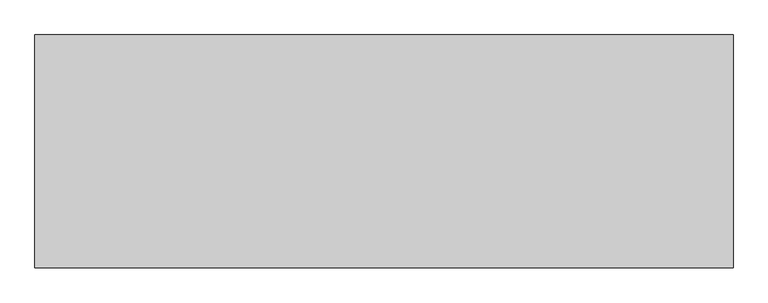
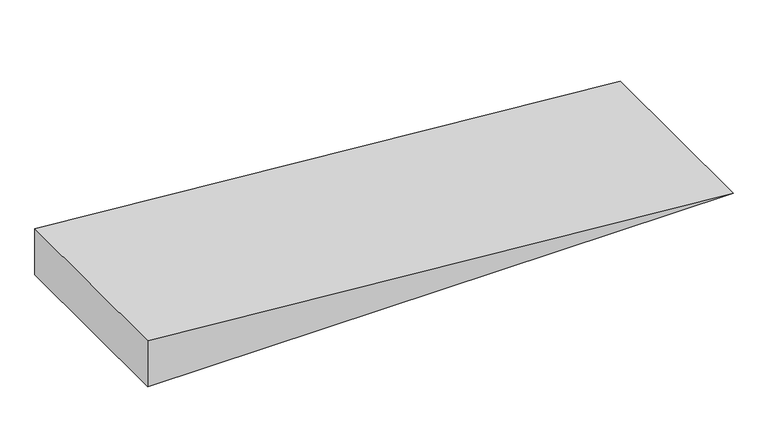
"""IFC4 building model written with IfcOpenShell, lengths in millimetres: ramp geometry, 坡道 1."""

import ifcopenshell
import ifcopenshell.guid

model = None  # the IFC model being written
_history = None  # IfcOwnerHistory: only IFC2X3 demands one
_inside = {}  # id of a spatial element -> (the spatial element, [elements in it])
_under = {}  # id of a project, library or spatial element -> (it, [spatial elements below it])
_declared = {}  # id of a project -> (the project, [libraries it declares])
_typed = {}  # id of a type object -> (the type object, [elements of that type])
_made_of = {}  # id of a material, layer set ... -> (it, [elements and type objects made of it])


def new_model(schema):
    """Start an empty IFC model of exactly this schema.

    Asked for "IFC4X3", IfcOpenShell would pick the latest addendum, in which some entities
    have other attributes; the version numbers below select the first issue.
    IFC2X3 requires an IfcOwnerHistory on every rooted entity: one is made here for all.
    """
    global model, _history
    if schema == "IFC4X3":
        model = ifcopenshell.file(schema_version=(4, 3, 0, 0))
    else:
        model = ifcopenshell.file(schema=schema)
    _inside.clear()
    _under.clear()
    _declared.clear()
    _typed.clear()
    _made_of.clear()
    _history = None
    if model.schema == "IFC2X3":
        org = make("IfcOrganization", Name="unknown")
        user = make(
            "IfcPersonAndOrganization",
            ThePerson=make("IfcPerson", FamilyName="unknown"),
            TheOrganization=org,
        )
        app = make(
            "IfcApplication",
            ApplicationDeveloper=org,
            Version="unknown",
            ApplicationFullName="unknown",
            ApplicationIdentifier="unknown",
        )
        _history = make(
            "IfcOwnerHistory",
            OwningUser=user,
            OwningApplication=app,
            ChangeAction="ADDED",
            CreationDate=0,
        )
    return model


def make(cls, **values):
    """One entity of the class cls with the attributes given. An attribute that is None is left unset."""
    return model.create_entity(
        cls, **{name: value for name, value in values.items() if value is not None}
    )


def rooted(cls, **values):
    """An entity with a GlobalId (a new one), such as an element, a storey or a relation."""
    return make(cls, GlobalId=ifcopenshell.guid.new(), OwnerHistory=_history, **values)


def si_unit(unit_type, name, prefix=None):
    """IfcSIUnit, for example si_unit("LENGTHUNIT", "METRE", prefix="MILLI")."""
    return make("IfcSIUnit", UnitType=unit_type, Prefix=prefix, Name=name)


def assignment(units):
    """IfcUnitAssignment: the units of a project."""
    return None if units is None else make("IfcUnitAssignment", Units=units)


def point(xyz):
    """IfcCartesianPoint."""
    return None if xyz is None else make("IfcCartesianPoint", Coordinates=xyz)


def direction(xyz):
    """IfcDirection."""
    return None if xyz is None else make("IfcDirection", DirectionRatios=xyz)


def frame(location, z_axis=None, x_axis=None):
    """IfcAxis2Placement3D, a coordinate frame: its origin and axes. An axis left out is left unset."""
    return make(
        "IfcAxis2Placement3D",
        Location=point(location),
        Axis=direction(z_axis),
        RefDirection=direction(x_axis),
    )


def origin():
    """The frame at (0, 0, 0) with its axes left unset."""
    return frame((0.0, 0.0, 0.0))


def place(relative_to, where):
    """IfcLocalPlacement: puts the frame where relative to a parent placement (None: the world)."""
    return make(
        "IfcLocalPlacement", PlacementRelTo=relative_to, RelativePlacement=where
    )


def context(
    kind, dimensions, precision=None, world=None, true_north=None, identifier=None
):
    """IfcGeometricRepresentationContext, for example the 3D "Model" context."""
    return make(
        "IfcGeometricRepresentationContext",
        ContextIdentifier=identifier,
        ContextType=kind,
        CoordinateSpaceDimension=dimensions,
        Precision=precision,
        WorldCoordinateSystem=world,
        TrueNorth=true_north,
    )


def project(units=None, contexts=None):
    """IfcProject with its units and contexts."""
    return rooted(
        "IfcProject",
        Name="project",
        RepresentationContexts=contexts,
        UnitsInContext=assignment(units),
    )


def spatial(cls, under=None, at=None, **own):
    """A site, building, storey or space (cls), placed at a placement, below another one or the project."""
    s = rooted(cls, ObjectPlacement=at, **own)
    if under is not None:
        _under.setdefault(under.id(), (under, []))[1].append(s)
    return s


def polyline(points):
    """IfcPolyline through the points."""
    return make("IfcPolyline", Points=[point(p) for p in points])


def outline(outer, holes=None, kind="AREA"):
    """IfcArbitraryClosedProfileDef: a profile drawn as a closed curve; with holes, ...WithVoids."""
    if holes is None:
        return make("IfcArbitraryClosedProfileDef", ProfileType=kind, OuterCurve=outer)
    return make(
        "IfcArbitraryProfileDefWithVoids",
        ProfileType=kind,
        OuterCurve=outer,
        InnerCurves=holes,
    )


def extrude(swept, where, along, depth):
    """IfcExtrudedAreaSolid: the profile swept, set in the frame where, extruded along a direction by depth."""
    return make(
        "IfcExtrudedAreaSolid",
        SweptArea=swept,
        Position=where,
        ExtrudedDirection=direction(along),
        Depth=depth,
    )


def shape(context_of_items, identifier, shape_type, items):
    """IfcShapeRepresentation: the items that make up one representation, for example the "Body"."""
    return make(
        "IfcShapeRepresentation",
        ContextOfItems=context_of_items,
        RepresentationIdentifier=identifier,
        RepresentationType=shape_type,
        Items=items,
    )


def source(mapping_origin, context_of_items, identifier, shape_type, items):
    """IfcRepresentationMap: a shape defined once, which mapped items show again and again."""
    return make(
        "IfcRepresentationMap",
        MappingOrigin=mapping_origin,
        MappedRepresentation=shape(context_of_items, identifier, shape_type, items),
    )


def transform(
    local_origin,
    x_axis=None,
    y_axis=None,
    z_axis=None,
    scale=None,
    scale2=None,
    scale3=None,
    uniform=True,
):
    """IfcCartesianTransformationOperator3D, or its non-uniform kind. x_axis, y_axis, z_axis: its Axis1, 2, 3."""
    if uniform:
        return make(
            "IfcCartesianTransformationOperator3D",
            Axis1=direction(x_axis),
            Axis2=direction(y_axis),
            LocalOrigin=point(local_origin),
            Scale=scale,
            Axis3=direction(z_axis),
        )
    return make(
        "IfcCartesianTransformationOperator3DnonUniform",
        Axis1=direction(x_axis),
        Axis2=direction(y_axis),
        LocalOrigin=point(local_origin),
        Scale=scale,
        Axis3=direction(z_axis),
        Scale2=scale2,
        Scale3=scale3,
    )


def mapped(mapping_source, mapping_target):
    """IfcMappedItem: shows the shape of a source again, moved by a transform."""
    return make(
        "IfcMappedItem", MappingSource=mapping_source, MappingTarget=mapping_target
    )


def made_of(thing, what):
    """Note that an element or type object is made of a material, layer set ...; save() writes the relation."""
    if what is not None:
        _made_of.setdefault(what.id(), (what, []))[1].append(thing)
    return thing


def element(
    cls,
    number,
    at=None,
    inside=None,
    cuts=None,
    type_object=None,
    material=None,
    context=None,
    identifier="Body",
    shape_type=None,
    held_by="IfcProductDefinitionShape",
    body=None,
    shapes=None,
    **own,
):
    """One element of the class cls, such as IfcWall. Its Tag is "e" and its number.

    at: its placement. inside: the storey or other place that contains it. cuts: it is an
    opening in that element (IfcRelVoidsElement). A single representation is given by context,
    identifier, shape_type and body (its items); several are given by shapes. held_by: the class
    of the entity that holds the representations. save() writes the other relations.
    """
    e = rooted(cls, Tag="e%d" % number, ObjectPlacement=at, **own)
    if body is not None:
        shapes = [shape(context, identifier, shape_type, body)]
    if shapes is not None:
        e.Representation = make(held_by, Representations=shapes)
    if inside is not None:
        _inside.setdefault(inside.id(), (inside, []))[1].append(e)
    if cuts is not None:
        rooted(
            "IfcRelVoidsElement", RelatingBuildingElement=cuts, RelatedOpeningElement=e
        )
    if type_object is not None:
        _typed.setdefault(type_object.id(), (type_object, []))[1].append(e)
    return made_of(e, material)


def aggregate(whole, parts):
    """IfcRelAggregates: a whole, such as a stair, and the parts it consists of."""
    return rooted("IfcRelAggregates", RelatingObject=whole, RelatedObjects=parts)


def save(model, path):
    """Write the relations noted so far, then the file.

    IfcRelAggregates (storeys below a building ...), IfcRelContainedInSpatialStructure (elements
    in a storey), IfcRelDefinesByType, IfcRelAssociatesMaterial and IfcRelDeclares: one each for
    every whole, place, type object, material and project.
    """
    for whole, parts in _under.values():
        aggregate(whole, parts)
    for where, things in _inside.values():
        rooted(
            "IfcRelContainedInSpatialStructure",
            RelatedElements=things,
            RelatingStructure=where,
        )
    for kind, things in _typed.values():
        rooted("IfcRelDefinesByType", RelatedObjects=things, RelatingType=kind)
    for what, things in _made_of.values():
        rooted("IfcRelAssociatesMaterial", RelatedObjects=things, RelatingMaterial=what)
    for by, libraries in _declared.values():
        rooted("IfcRelDeclares", RelatingContext=by, RelatedDefinitions=libraries)
    model.write(path)


def ramp_fb5636dc(model_context):
    return source(origin(), model_context, "Body", "SweptSolid", [
        extrude(outline(polyline([(-450.0, 33111.3108536), (0.0, 27711.3108536), (-450.0, 27711.3108536), (-450.0, 33111.3108536)])), frame((0.0, -6903.3904183, 0.0), z_axis=(0.0, 1.0, 0.0), x_axis=(0.0, 0.0, 1.0)), (0.0, 0.0, 1.0), 1800.0),
    ])


if __name__ == "__main__":
    model = new_model("IFC4")
    model_context = context("Model", 3, world=origin())
    ifc_project = project(units=[si_unit("LENGTHUNIT", "METRE", prefix="MILLI")], contexts=[model_context])
    site = spatial("IfcSite", under=ifc_project)
    building = spatial("IfcBuilding", under=site)
    placement = place(None, origin())
    ramp_shape = ramp_fb5636dc(model_context)
    element("IfcRamp", 1, ObjectType="坡道 1", at=placement, inside=building, context=model_context, shape_type="MappedRepresentation", body=[
        mapped(ramp_shape, transform((0.0, 0.0, 0.0), x_axis=(1.0, 0.0, 0.0), y_axis=(0.0, 1.0, 0.0), z_axis=(0.0, 0.0, 1.0))),
    ])
    save(model, "model.ifc")
